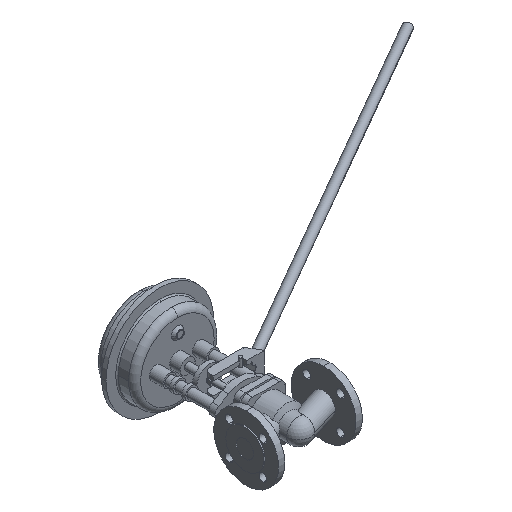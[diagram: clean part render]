
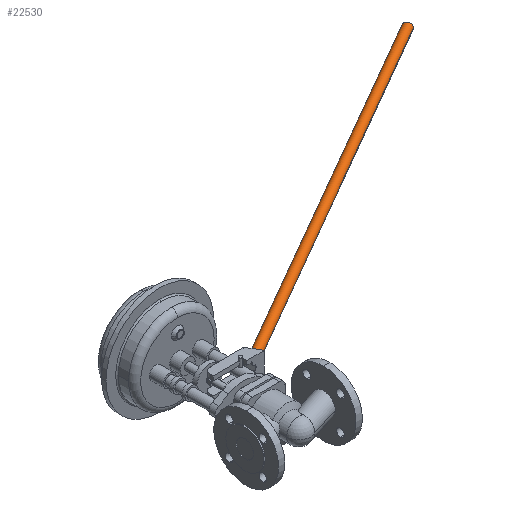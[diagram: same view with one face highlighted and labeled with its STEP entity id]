
A CAD part, isometric view. The second image highlights one B-rep face of the part: STEP entity #22530.
In plain terms, the highlighted cylindrical face has radius 10 mm (diameter 20 mm), a partial arc.
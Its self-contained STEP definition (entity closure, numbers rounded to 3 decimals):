
#22120=CARTESIAN_POINT('',(603.037,408.26,
0.));
#22130=DIRECTION('',(-0.866,-0.5,0.));
#22140=DIRECTION('',(0.5,-0.866,0.));
#22150=AXIS2_PLACEMENT_3D('',#22120,#22130,#22140);
#22160=CYLINDRICAL_SURFACE('',#22150,10.);
#22170=CARTESIAN_POINT('',(608.037,399.599,
0.));
#22180=DIRECTION('',(-0.866,-0.5,0.));
#22190=VECTOR('',#22180,1.);
#22200=LINE('',#22170,#22190);
#22210=CARTESIAN_POINT('',(1038.884,648.349,
0.));
#22220=VERTEX_POINT('',#22210);
#22230=CARTESIAN_POINT('',(190.179,158.349,
0.));
#22240=VERTEX_POINT('',#22230);
#22250=EDGE_CURVE('',#22220,#22240,#22200,.T.);
#22260=ORIENTED_EDGE('',*,*,#22250,.F.);
#22270=CARTESIAN_POINT('',(185.179,167.01,
0.));
#22280=DIRECTION('',(-0.866,-0.5,0.));
#22290=DIRECTION('',(0.5,-0.866,
0.));
#22300=AXIS2_PLACEMENT_3D('',#22270,#22280,#22290);
#22310=CIRCLE('',#22300,10.);
#22320=CARTESIAN_POINT('',(180.179,175.67,
0.));
#22330=VERTEX_POINT('',#22320);
#22340=EDGE_CURVE('',#22240,#22330,#22310,.T.);
#22350=ORIENTED_EDGE('',*,*,#22340,.F.);
#22360=CARTESIAN_POINT('',(598.037,416.92,
0.));
#22370=DIRECTION('',(-0.866,-0.5,0.));
#22380=VECTOR('',#22370,1.);
#22390=LINE('',#22360,#22380);
#22400=CARTESIAN_POINT('',(1028.884,665.67,
0.));
#22410=VERTEX_POINT('',#22400);
#22420=EDGE_CURVE('',#22410,#22330,#22390,.T.);
#22430=ORIENTED_EDGE('',*,*,#22420,.T.);
#22440=CARTESIAN_POINT('',(1033.884,657.01,
0.));
#22450=DIRECTION('',(0.866,0.5,0.));
#22460=DIRECTION('',(0.5,-0.866,0.));
#22470=AXIS2_PLACEMENT_3D('',#22440,#22450,#22460);
#22480=CIRCLE('',#22470,10.);
#22490=EDGE_CURVE('',#22410,#22220,#22480,.T.);
#22500=ORIENTED_EDGE('',*,*,#22490,.F.);
#22510=EDGE_LOOP('',(#22500,#22430,#22350,#22260));
#22520=FACE_OUTER_BOUND('',#22510,.T.);
#22530=ADVANCED_FACE('',(#22520),#22160,.T.);
